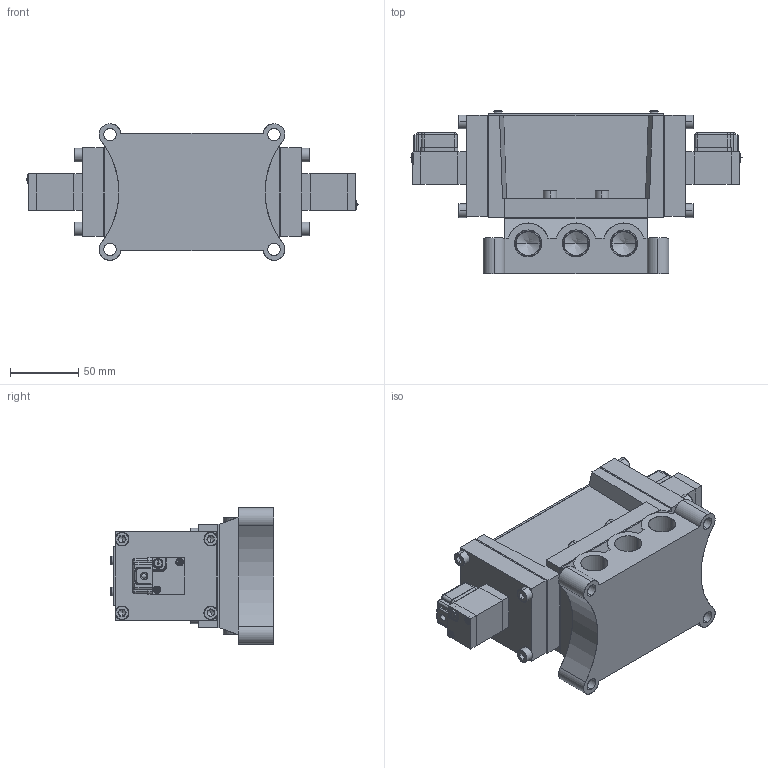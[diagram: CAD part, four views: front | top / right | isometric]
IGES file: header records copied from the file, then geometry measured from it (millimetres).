
Start section: SolidWorks IGES file using analytic representation for surfaces
Global section: file name: D:\Custom\3D繪製\PM\PM15\PMD2415#-04-#G#.IGS,1; native system: 5HSolidWorks 2014; preprocessor: SolidWorks 2014; author: Chieh_Lu; date: 151215.222222; units: millimetre
Bounding box: 242.95 x 119.55 x 100 mm (x, y, z)
Surface area: 208544.8 mm2 (no closed solid volume)
Topology: 0 solids, 0 shells, 1083 faces, 11257 edges, 11205 vertices
Faces by surface type: bspline 685, revolution 398
